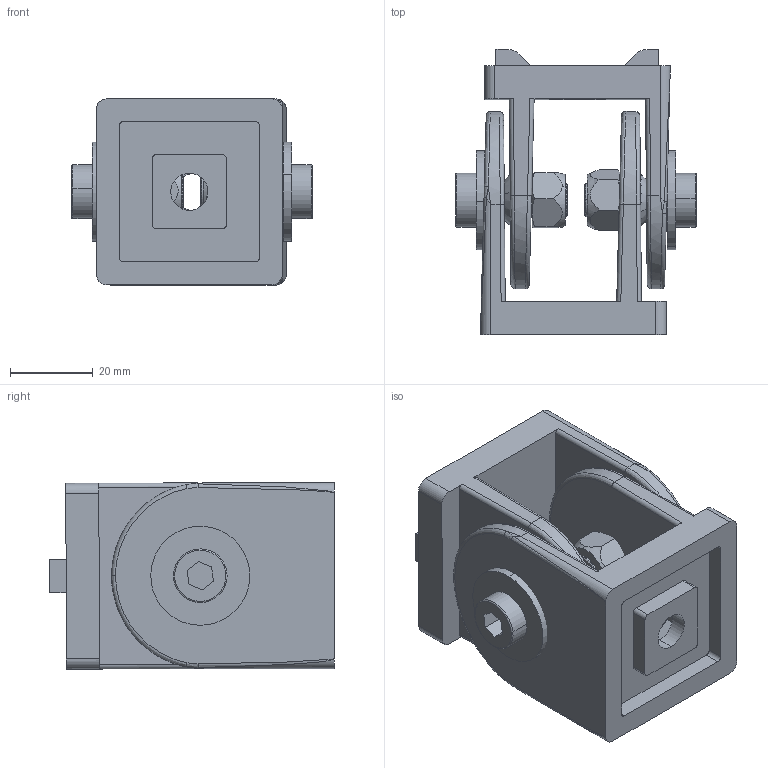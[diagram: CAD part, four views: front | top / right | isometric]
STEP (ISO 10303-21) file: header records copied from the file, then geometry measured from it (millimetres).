
FILE_DESCRIPTION (( 'STEP AP214' ), '1' );
FILE_NAME ('084.311.020.STEP', '2021-02-05T10:56:00', ( '' ), ( '' ), 'SwSTEP 2.0', 'SolidWorks 2018', '' );
FILE_SCHEMA (( 'AUTOMOTIVE_DESIGN' ));
Length unit declared in the file: millimetre
Products named in the file (7): 084.311.020; DIN 6798-V10.5_DIN 6798-V10.5; ISO 7042-M8-N_ISO 7042-M8-N; 084.301.000 VITI ALUSIC-2_084.301.012; Washer ISO 7093 - 10_Washer ISO 7093 - 10; 084.311.015L; 084.311.010-2
Assembly tree (11 placements, depth 2):
  084.311.020
    084.311.015L  x2
    084.311.010-2
    084.301.000 VITI ALUSIC-2_084.301.012  x2
    DIN 6798-V10.5_DIN 6798-V10.5  x2
    Washer ISO 7093 - 10_Washer ISO 7093 - 10  x2
    ISO 7042-M8-N_ISO 7042-M8-N  x2
Bounding box: 58.3 x 69.02 x 45.13 mm (x, y, z)
Volume: 68245.6 mm3; surface area: 36542.3 mm2
Topology: 11 solids, 11 shells, 436 faces, 1148 edges, 736 vertices
Faces by surface type: plane 268, cylinder 96, cone 40, bspline 28, torus 4
Entity records: 8483 total; most frequent: CARTESIAN_POINT 2260, ORIENTED_EDGE 1272, DIRECTION 1186, EDGE_CURVE 636, VERTEX_POINT 412, AXIS2_PLACEMENT_3D 405, LINE 376, VECTOR 376
